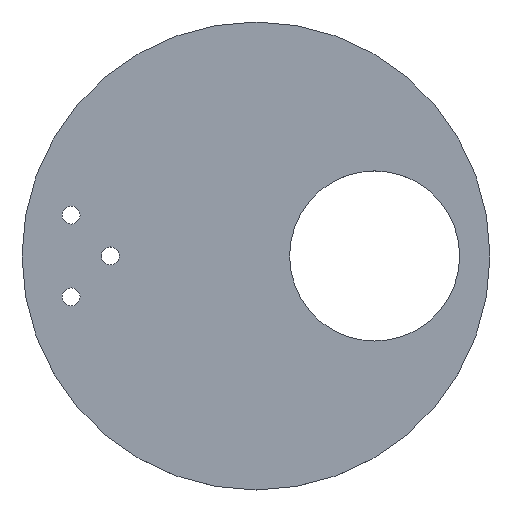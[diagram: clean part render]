
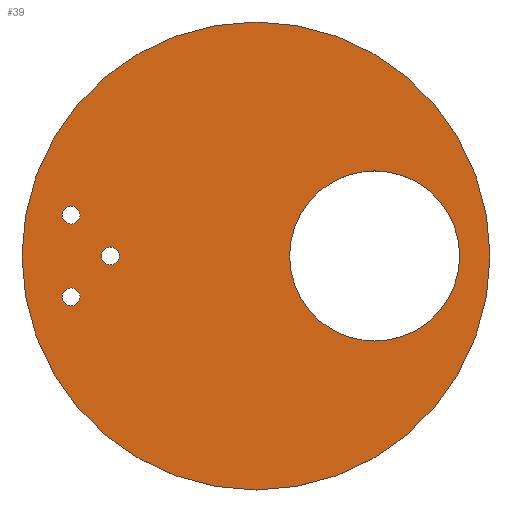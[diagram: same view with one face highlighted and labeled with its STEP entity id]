
A CAD part, top view. The second image highlights one B-rep face of the part: STEP entity #39.
In plain terms, the highlighted planar face has unit normal (0, 0, 1).
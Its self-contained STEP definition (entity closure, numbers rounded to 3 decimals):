
#39 = ADVANCED_FACE( '', ( #81, #82, #83, #84, #85 ), #86, .F. );
#81 = FACE_BOUND( '', #122, .T. );
#82 = FACE_BOUND( '', #123, .T. );
#83 = FACE_BOUND( '', #124, .T. );
#84 = FACE_BOUND( '', #125, .T. );
#85 = FACE_OUTER_BOUND( '', #126, .T. );
#86 = PLANE( '', #127 );
#122 = EDGE_LOOP( '', ( #165 ) );
#123 = EDGE_LOOP( '', ( #166 ) );
#124 = EDGE_LOOP( '', ( #167 ) );
#125 = EDGE_LOOP( '', ( #168 ) );
#126 = EDGE_LOOP( '', ( #169 ) );
#127 = AXIS2_PLACEMENT_3D( '', #170, #171, #172 );
#165 = ORIENTED_EDGE( '', *, *, #190, .T. );
#166 = ORIENTED_EDGE( '', *, *, #187, .T. );
#167 = ORIENTED_EDGE( '', *, *, #193, .T. );
#168 = ORIENTED_EDGE( '', *, *, #198, .T. );
#169 = ORIENTED_EDGE( '', *, *, #199, .F. );
#170 = CARTESIAN_POINT( '', ( 0., 0., 3. ) );
#171 = DIRECTION( '', ( 0., 0., -1. ) );
#172 = DIRECTION( '', ( -1., 0., 0. ) );
#187 = EDGE_CURVE( '', #205, #205, #206, .T. );
#190 = EDGE_CURVE( '', #210, #210, #211, .T. );
#193 = EDGE_CURVE( '', #215, #215, #216, .T. );
#198 = EDGE_CURVE( '', #223, #223, #224, .T. );
#199 = EDGE_CURVE( '', #225, #225, #226, .T. );
#205 = VERTEX_POINT( '', #232 );
#206 = CIRCLE( '', #233, 2.75 );
#210 = VERTEX_POINT( '', #237 );
#211 = CIRCLE( '', #238, 2.75 );
#215 = VERTEX_POINT( '', #242 );
#216 = CIRCLE( '', #243, 2.75 );
#223 = VERTEX_POINT( '', #250 );
#224 = CIRCLE( '', #251, 26. );
#225 = VERTEX_POINT( '', #252 );
#226 = CIRCLE( '', #253, 71.5 );
#232 = CARTESIAN_POINT( '', ( -56.5, 9.75, 3. ) );
#233 = AXIS2_PLACEMENT_3D( '', #259, #260, #261 );
#237 = CARTESIAN_POINT( '', ( -44.5, -2.75, 3. ) );
#238 = AXIS2_PLACEMENT_3D( '', #265, #266, #267 );
#242 = CARTESIAN_POINT( '', ( -56.5, -15.25, 3. ) );
#243 = AXIS2_PLACEMENT_3D( '', #271, #272, #273 );
#250 = CARTESIAN_POINT( '', ( 62.25, 0., 3. ) );
#251 = AXIS2_PLACEMENT_3D( '', #280, #281, #282 );
#252 = CARTESIAN_POINT( '', ( 71.5, 0., 3. ) );
#253 = AXIS2_PLACEMENT_3D( '', #283, #284, #285 );
#259 = CARTESIAN_POINT( '', ( -56.5, 12.5, 3. ) );
#260 = DIRECTION( '', ( 0., 0., -1. ) );
#261 = DIRECTION( '', ( 0., -1., 0. ) );
#265 = CARTESIAN_POINT( '', ( -44.5, 0., 3. ) );
#266 = DIRECTION( '', ( 0., 0., -1. ) );
#267 = DIRECTION( '', ( 0., -1., 0. ) );
#271 = CARTESIAN_POINT( '', ( -56.5, -12.5, 3. ) );
#272 = DIRECTION( '', ( 0., 0., -1. ) );
#273 = DIRECTION( '', ( 0., -1., 0. ) );
#280 = CARTESIAN_POINT( '', ( 36.25, 0., 3. ) );
#281 = DIRECTION( '', ( 0., 0., -1. ) );
#282 = DIRECTION( '', ( 1., 0., 0. ) );
#283 = CARTESIAN_POINT( '', ( 0., 0., 3. ) );
#284 = DIRECTION( '', ( 0., 0., -1. ) );
#285 = DIRECTION( '', ( 1., 0., 0. ) );
